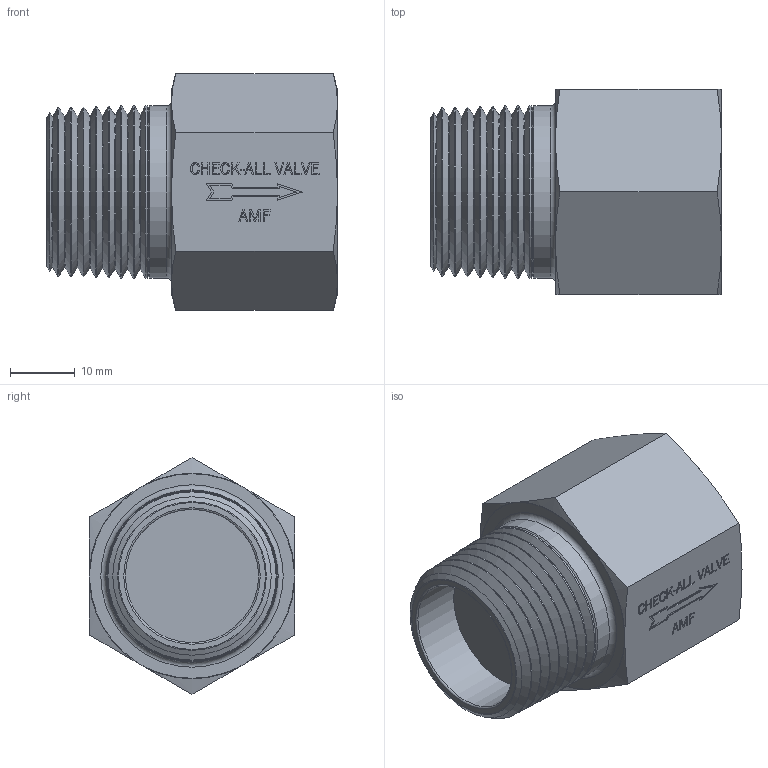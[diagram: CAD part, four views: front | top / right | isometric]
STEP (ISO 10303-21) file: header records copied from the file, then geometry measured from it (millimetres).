
FILE_DESCRIPTION(/* description */ ('Unknown'),/* implementation_level */ '2;1');
FILE_NAME(/* name */ 'AMFXXOR.500XX-WEB',/* time_stamp */ '2022-10-03T14:08:26-05:00',/* author */ ('Unknown'),/* organization */ ('Unknown'),/* preprocessor_version */ 'ST-DEVELOPER v18.102',/* originating_system */ 'Solid Edge',/* authorisation */ 'Unknown');
FILE_SCHEMA (('AUTOMOTIVE_DESIGN {1 0 10303 214 3 1 1}'));
Length unit declared in the file: inch
Products named in the file (1): F-AX-FXXA-A-WEB (2)
Bounding box: 45.03 x 31.75 x 36.66 mm (x, y, z)
Volume: 23573.7 mm3; surface area: 10030 mm2
Topology: 1 solids, 1 shells, 338 faces, 855 edges, 523 vertices
Faces by surface type: plane 204, cone 76, bspline 28, torus 16, cylinder 14
Full cylindrical faces by diameter (mm): 11.786 x1, 16.51 x2, 20.625 x1, 23.421 x6, 26.67 x4
Entity records: 11878 total; most frequent: CARTESIAN_POINT 2427, ORIENTED_EDGE 1460, DIRECTION 1264, EDGE_CURVE 730, VERTEX_POINT 504, EDGE_LOOP 448, FACE_BOUND 448, AXIS2_PLACEMENT_3D 447
